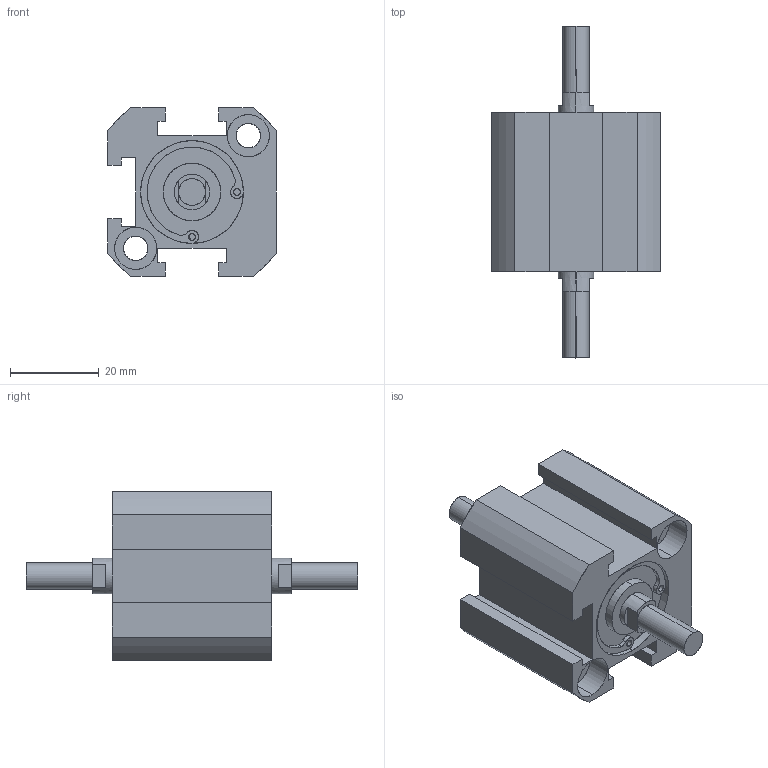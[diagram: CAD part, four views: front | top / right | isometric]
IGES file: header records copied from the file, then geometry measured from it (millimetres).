
Start section: SolidWorks IGES file using analytic representation for surfaces
Global section: file name: C:\Users\Toshiba\Desktop\XC#M7-20D-10.IGS; native system: SolidWorks 2014; preprocessor: SolidWorks 2014; author: Toshiba; date: 160523.165458; units: millimetre
Bounding box: 38 x 75 x 38 mm (x, y, z)
Surface area: 12442.6 mm2 (no closed solid volume)
Topology: 0 solids, 0 shells, 120 faces, 1860 edges, 1856 vertices
Faces by surface type: revolution 62, bspline 58
